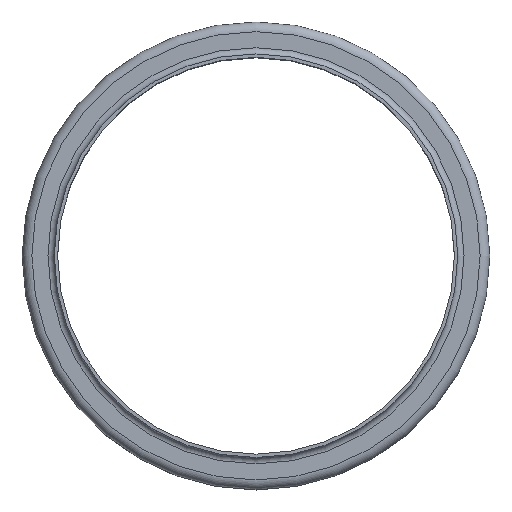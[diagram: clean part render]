
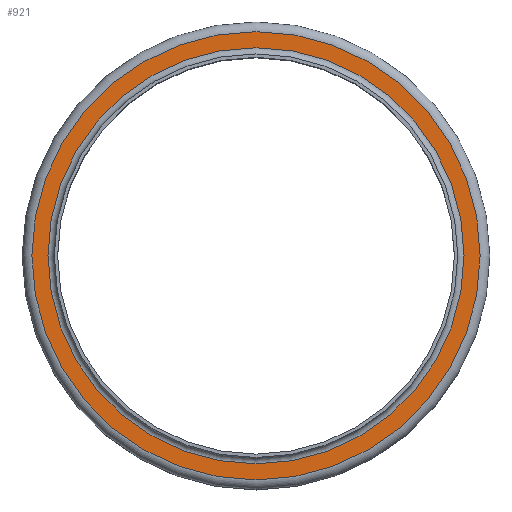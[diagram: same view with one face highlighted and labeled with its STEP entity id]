
A CAD part, top view. The second image highlights one B-rep face of the part: STEP entity #921.
In plain terms, the highlighted planar face has unit normal (0, 0, 1).
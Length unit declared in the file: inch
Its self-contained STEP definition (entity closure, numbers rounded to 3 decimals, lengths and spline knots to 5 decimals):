
#98=FACE_BOUND('',#272,.T.);
#165=FACE_OUTER_BOUND('',#271,.T.);
#271=EDGE_LOOP('',(#772));
#272=EDGE_LOOP('',(#773));
#385=CIRCLE('',#1110,7.34125);
#386=CIRCLE('',#1112,7.90875);
#466=VERTEX_POINT('',#1734);
#467=VERTEX_POINT('',#1738);
#571=EDGE_CURVE('',#466,#466,#385,.T.);
#572=EDGE_CURVE('',#467,#467,#386,.T.);
#772=ORIENTED_EDGE('',*,*,#572,.F.);
#773=ORIENTED_EDGE('',*,*,#571,.T.);
#854=PLANE('',#1111);
#921=ADVANCED_FACE('',(#165,#98),#854,.T.);
#1110=AXIS2_PLACEMENT_3D('',#1736,#1446,#1447);
#1111=AXIS2_PLACEMENT_3D('',#1737,#1448,#1449);
#1112=AXIS2_PLACEMENT_3D('',#1739,#1450,#1451);
#1446=DIRECTION('center_axis',(0.,0.,-1.));
#1447=DIRECTION('ref_axis',(1.,0.,0.));
#1448=DIRECTION('center_axis',(0.,0.,1.));
#1449=DIRECTION('ref_axis',(1.,0.,0.));
#1450=DIRECTION('center_axis',(0.,0.,-1.));
#1451=DIRECTION('ref_axis',(1.,0.,0.));
#1734=CARTESIAN_POINT('',(7.34125,0.,-0.22125));
#1736=CARTESIAN_POINT('Origin',(0.,0.,-0.22125));
#1737=CARTESIAN_POINT('Origin',(0.,7.90875,-0.22125));
#1738=CARTESIAN_POINT('',(7.90875,0.,-0.22125));
#1739=CARTESIAN_POINT('Origin',(0.,0.,-0.22125));
